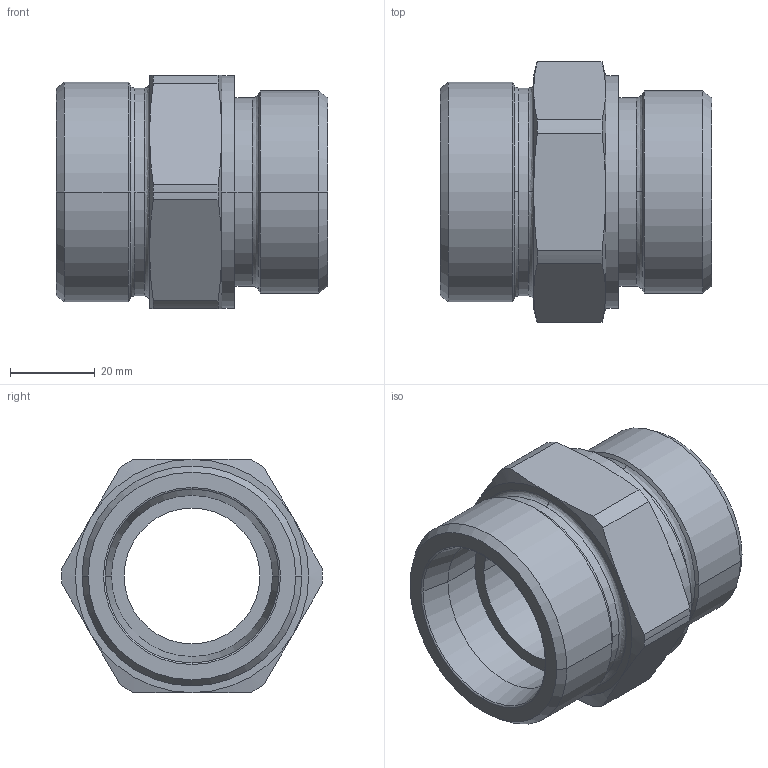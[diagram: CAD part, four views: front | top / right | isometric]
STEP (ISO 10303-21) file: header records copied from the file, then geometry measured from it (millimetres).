
FILE_DESCRIPTION((''),'2;1');
FILE_NAME('100523.stp','2007-10-30T14:15:10',(''),(''),'AutoCAD STEP 2000i','AutoCAD 2000i',', , ');
FILE_SCHEMA(('CONFIG_CONTROL_DESIGN'));
Length unit declared in the file: millimetre
Products named in the file (2): 100523.0; CHIAVE SMUSSATA#0
Assembly tree (1 placements, depth 2):
  100523.0
    CHIAVE SMUSSATA#0
Bounding box: 64 x 61.5 x 55 mm (x, y, z)
Volume: 75547.4 mm3; surface area: 21147.2 mm2
Topology: 1 solids, 1 shells, 75 faces, 185 edges, 117 vertices
Faces by surface type: cylinder 24, cone 24, plane 13, bspline 12, torus 2
Entity records: 2835 total; most frequent: CARTESIAN_POINT 955, DIRECTION 410, ORIENTED_EDGE 370, EDGE_CURVE 185, AXIS2_PLACEMENT_3D 184, CIRCLE 119, VERTEX_POINT 117, EDGE_LOOP 82
